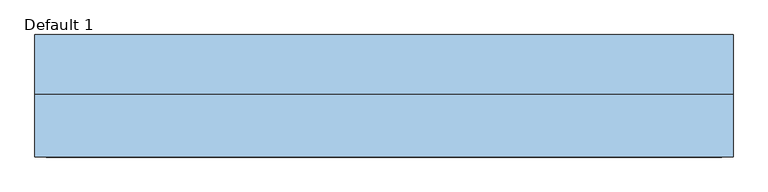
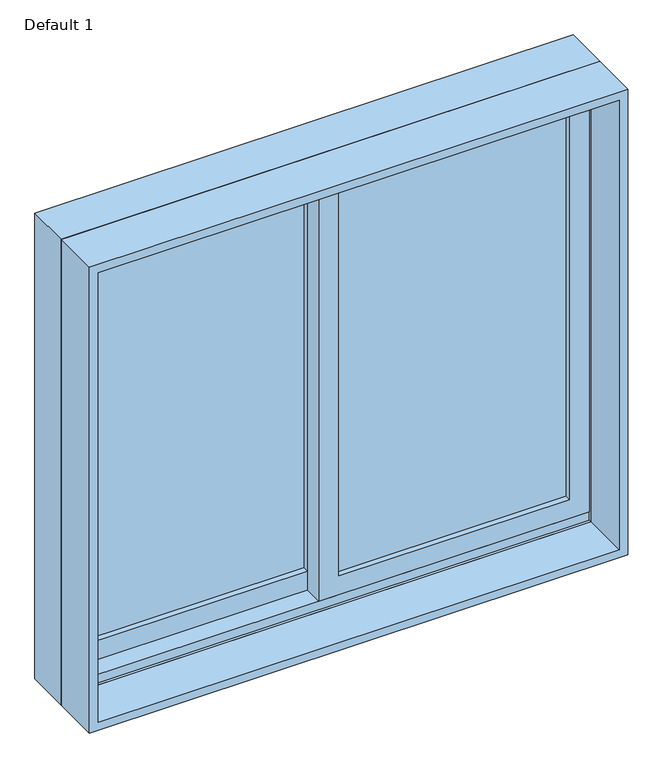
"""IFC4 building model written with IfcOpenShell, lengths in millimetres: window geometry, Planitar-Sliding-Double : Default 1."""

from ifc_helpers import new_model, si_unit, frame, origin, place, context, project, spatial, polyline, outline, extrude, faceted_brep, source, transform, mapped, element, save


def default_1_798206ea(model_context):
    return source(origin(), model_context, "Body", "SolidModel", [
        extrude(outline(polyline([(933.45, -577.85), (933.45, 22.225), (1987.55, 22.225), (1987.55, -577.85), (933.45, -577.85)]), holes=[polyline([(1943.1, -22.225), (996.95, -22.225), (996.95, -533.4), (1943.1, -533.4), (1943.1, -22.225)])]), frame((0.0, 59.69, 0.0), z_axis=(0.0, 1.0, 0.0), x_axis=(0.0, 0.0, 1.0)), (0.0, 0.0, 1.0), 44.45),
        extrude(outline(polyline([(952.5, 577.85), (1987.55, 577.85), (1987.55, -22.225), (952.5, -22.225), (952.5, 577.85)]), holes=[polyline([(996.95, 22.225), (1943.1, 22.225), (1943.1, 533.4), (996.95, 533.4), (996.95, 22.225)])]), frame((0.0, 15.24, 0.0), z_axis=(0.0, 1.0, 0.0), x_axis=(0.0, 0.0, 1.0)), (0.0, 0.0, 1.0), 44.45),
        faceted_brep([(-596.9, 8.89, 914.4), (-596.9, 110.49, 914.4), (596.9, 110.49, 914.4), (596.9, 8.89, 914.4), (-555.9778905, 110.49, 1965.6778905), (-555.9778905, 104.14, 1965.6778905), (-555.9778905, 104.14, 933.45), (-555.9778905, 110.49, 933.45), (555.9778905, 104.14, 1965.6778905), (555.9778905, 104.14, 933.45), (577.85, 104.14, 933.45), (577.85, 104.14, 1987.55), (-577.85, 104.14, 1987.55), (-577.85, 104.14, 933.45), (-577.85, 8.89, 1987.55), (-577.85, 8.89, 933.45), (-577.85, 15.24, 933.45), (-577.85, 15.24, 952.5), (-577.85, 59.69, 952.5), (-577.85, 59.69, 933.45), (596.9, 8.89, 2006.6), (-596.9, 8.89, 2006.6), (577.85, 8.89, 1987.55), (577.85, 8.89, 933.45), (-596.9, 110.49, 2006.6), (596.9, 110.49, 2006.6), (555.9778905, 110.49, 933.45), (555.9778905, 110.49, 1965.6778905), (577.85, 59.69, 933.45), (577.85, 59.69, 952.5), (577.85, 15.24, 952.5), (577.85, 15.24, 933.45)], [[[0, 1, 2, 3]], [[4, 5, 6, 7]], [[5, 8, 9, 10, 11, 12, 13, 6]], [[12, 14, 15, 16, 17, 18, 19, 13]], [[0, 3, 20, 21], [22, 23, 15, 14]], [[24, 1, 0, 21]], [[2, 1, 24, 25], [4, 7, 26, 27]], [[5, 4, 27, 8]], [[12, 11, 22, 14]], [[21, 20, 25, 24]], [[8, 27, 26, 9]], [[22, 11, 10, 28, 29, 30, 31, 23]], [[20, 3, 2, 25]], [[26, 7, 6, 13, 19, 28, 10, 9]], [[28, 19, 18, 29]], [[29, 18, 17, 30]], [[30, 17, 16, 31]], [[15, 23, 31, 16]]]),
        extrude(outline(polyline([(2006.6, -596.9), (914.4, -596.9), (914.4, 596.9), (2006.6, 596.9), (2006.6, -596.9)]), holes=[polyline([(1987.55, 577.85), (933.45, 577.85), (933.45, -577.85), (1987.55, -577.85), (1987.55, 577.85)])]), frame((0.0, -99.06, 0.0), z_axis=(0.0, 1.0, 0.0), x_axis=(0.0, 0.0, 1.0)), (0.0, 0.0, 1.0), 107.95),
        extrude(outline(polyline([(533.4, 46.99), (533.4, 40.64), (22.225, 40.64), (22.225, 46.99), (533.4, 46.99)])), frame((0.0, 0.0, 996.95), z_axis=(0.0, 0.0, 1.0), x_axis=(1.0, 0.0, 0.0)), (0.0, 0.0, 1.0), 946.15),
        extrude(outline(polyline([(533.4, 34.29), (533.4, 27.94), (22.225, 27.94), (22.225, 34.29), (533.4, 34.29)])), frame((0.0, 0.0, 996.95), z_axis=(0.0, 0.0, 1.0), x_axis=(1.0, 0.0, 0.0)), (0.0, 0.0, 1.0), 946.15),
        extrude(outline(polyline([(-22.225, 91.44), (-22.225, 85.09), (-533.4, 85.09), (-533.4, 91.44), (-22.225, 91.44)])), frame((0.0, 0.0, 996.95), z_axis=(0.0, 0.0, 1.0), x_axis=(1.0, 0.0, 0.0)), (0.0, 0.0, 1.0), 946.15),
        extrude(outline(polyline([(-22.225, 78.74), (-22.225, 72.39), (-533.4, 72.39), (-533.4, 78.74), (-22.225, 78.74)])), frame((0.0, 0.0, 996.95), z_axis=(0.0, 0.0, 1.0), x_axis=(1.0, 0.0, 0.0)), (0.0, 0.0, 1.0), 946.15),
    ])


if __name__ == "__main__":
    model = new_model("IFC4")
    model_context = context("Model", 3, world=origin())
    ifc_project = project(units=[si_unit("LENGTHUNIT", "METRE", prefix="MILLI")], contexts=[model_context])
    site = spatial("IfcSite", under=ifc_project)
    building = spatial("IfcBuilding", under=site)
    placement = place(None, origin())
    default_1_shape = default_1_798206ea(model_context)
    element("IfcWindow", 1, ObjectType="Planitar-Sliding-Double : Default 1", at=placement, inside=building, context=model_context, shape_type="MappedRepresentation", body=[
        mapped(default_1_shape, transform((0.0, 0.0, 0.0), x_axis=(1.0, 0.0, 0.0), y_axis=(0.0, 1.0, 0.0), z_axis=(0.0, 0.0, 1.0))),
    ])
    save(model, "model.ifc")
